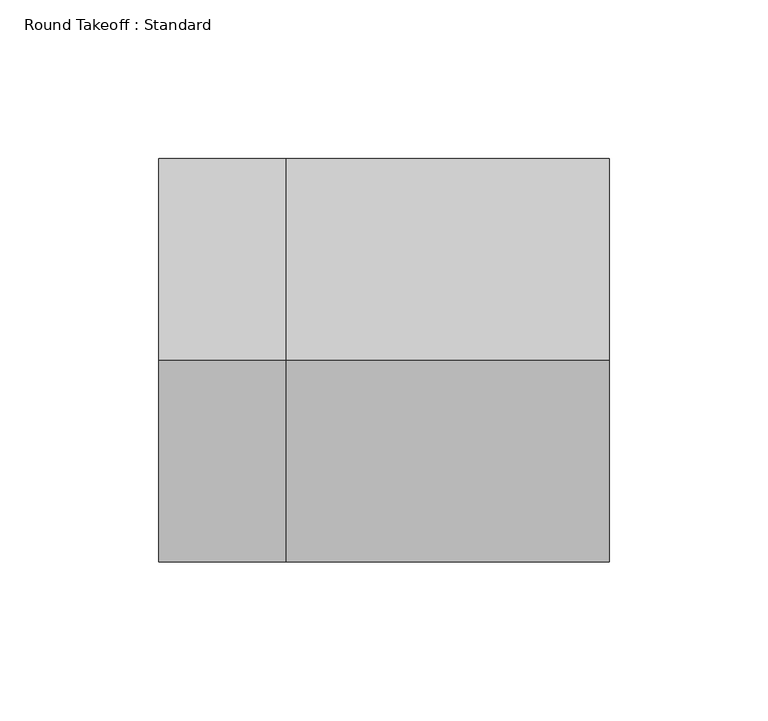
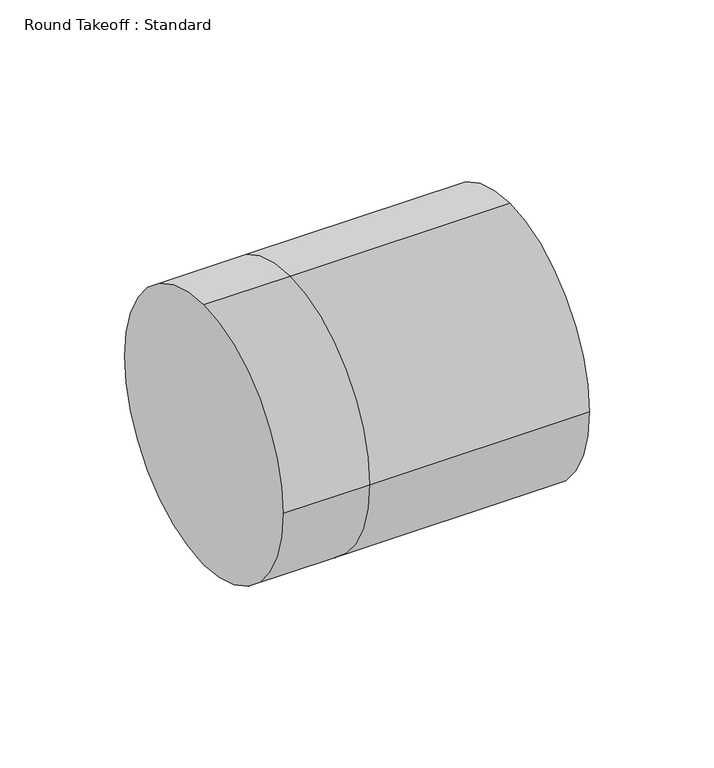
"""IFC4 building model written with IfcOpenShell, lengths in millimetres: duct fitting geometry, Round Takeoff : Standard."""

from ifc_helpers import new_model, si_unit, frame, origin, place, context, project, spatial, circle_curve, source, transform, mapped, element, save
from ifc_brep_helpers import plane_surface, cylinder_surface, advanced_brep


def round_takeoff_standard_0d53327c(model_context):
    return source(origin(), model_context, "Body", "AdvancedBrep", [
        advanced_brep(
        [(101.6, 0.0, 63.5), (101.6, -63.5, 0.0), (101.6, 0.0, -63.5), (101.6, 63.5, 0.0), (0.0, 0.0, 63.5), (0.0, -63.5, 0.0), (0.0, 0.0, -63.5), (0.0, 63.5, 0.0), (-40.1748652, 0.0, 63.5), (-40.1748652, 63.5, 0.0), (-40.1748652, 0.0, -63.5), (-40.1748652, -63.5, 0.0)],
        [
            (0, 1, circle_curve(frame((101.6, 0.0, 0.0), z_axis=(1.0, 0.0, 0.0), x_axis=(0.0, -1.0, 0.0)), 63.5)),
            (1, 2, circle_curve(frame((101.6, 0.0, 0.0), z_axis=(1.0, 0.0, 0.0), x_axis=(0.0, -1.0, 0.0)), 63.5)),
            (2, 3, circle_curve(frame((101.6, 0.0, 0.0), z_axis=(1.0, 0.0, 0.0), x_axis=(0.0, -1.0, 0.0)), 63.5)),
            (3, 0, circle_curve(frame((101.6, 0.0, 0.0), z_axis=(1.0, 0.0, 0.0), x_axis=(0.0, -1.0, 0.0)), 63.5)),
            (0, 4),
            (4, 5, circle_curve(frame((0.0, 0.0, 0.0), z_axis=(1.0, 0.0, 0.0), x_axis=(0.0, -1.0, 0.0)), 63.5)),
            (5, 1),
            (5, 6, circle_curve(frame((0.0, 0.0, 0.0), z_axis=(1.0, 0.0, 0.0), x_axis=(0.0, -1.0, 0.0)), 63.5)),
            (6, 2),
            (6, 7, circle_curve(frame((0.0, 0.0, 0.0), z_axis=(1.0, 0.0, 0.0), x_axis=(0.0, -1.0, 0.0)), 63.5)),
            (7, 3),
            (7, 4, circle_curve(frame((0.0, 0.0, 0.0), z_axis=(1.0, 0.0, 0.0), x_axis=(0.0, -1.0, 0.0)), 63.5)),
            (8, 9, circle_curve(frame((-40.1748652, 0.0, 0.0), z_axis=(-1.0, 0.0, 0.0), x_axis=(0.0, -1.0, 0.0)), 63.5)),
            (9, 10, circle_curve(frame((-40.1748652, 0.0, 0.0), z_axis=(-1.0, 0.0, 0.0), x_axis=(0.0, -1.0, 0.0)), 63.5)),
            (10, 11, circle_curve(frame((-40.1748652, 0.0, 0.0), z_axis=(-1.0, 0.0, 0.0), x_axis=(0.0, -1.0, 0.0)), 63.5)),
            (11, 8, circle_curve(frame((-40.1748652, 0.0, 0.0), z_axis=(-1.0, 0.0, 0.0), x_axis=(0.0, -1.0, 0.0)), 63.5)),
            (11, 5),
            (4, 8),
            (10, 6),
            (9, 7),
        ],
        [
            plane_surface(frame((101.6, 0.0, 0.0), z_axis=(1.0, 0.0, 0.0), x_axis=(0.0, 0.0, 1.0))),
            cylinder_surface(frame((0.0, 0.0, 0.0), z_axis=(-1.0, 0.0, 0.0), x_axis=(0.0, -1.0, 0.0)), 63.5),
            plane_surface(frame((-40.1748652, 0.0, 0.0), z_axis=(-1.0, 0.0, 0.0), x_axis=(0.0, 0.0, 1.0))),
            cylinder_surface(frame((-40.1748652, 0.0, 0.0), z_axis=(-1.0, 0.0, 0.0), x_axis=(0.0, -1.0, 0.0)), 63.5),
        ],
        [
            (0, [[1, 2, 3, 4]]),
            (1, [[5, 6, 7, -1]]),
            (1, [[-7, 8, 9, -2]]),
            (1, [[-9, 10, 11, -3]]),
            (1, [[-11, 12, -5, -4]]),
            (2, [[13, 14, 15, 16]]),
            (3, [[17, -6, 18, -16]]),
            (3, [[19, -8, -17, -15]]),
            (3, [[20, -10, -19, -14]]),
            (3, [[-18, -12, -20, -13]]),
        ],
    ),
    ])


if __name__ == "__main__":
    model = new_model("IFC4")
    model_context = context("Model", 3, world=origin())
    ifc_project = project(units=[si_unit("LENGTHUNIT", "METRE", prefix="MILLI")], contexts=[model_context])
    site = spatial("IfcSite", under=ifc_project)
    building = spatial("IfcBuilding", under=site)
    placement = place(None, origin())
    round_takeoff_standard_shape = round_takeoff_standard_0d53327c(model_context)
    element("IfcDuctFitting", 1, ObjectType="Round Takeoff : Standard", at=placement, inside=building, context=model_context, shape_type="MappedRepresentation", body=[
        mapped(round_takeoff_standard_shape, transform((0.0, 0.0, 0.0), x_axis=(1.0, 0.0, 0.0), y_axis=(0.0, 1.0, 0.0), z_axis=(0.0, 0.0, 1.0))),
    ])
    save(model, "model.ifc")
